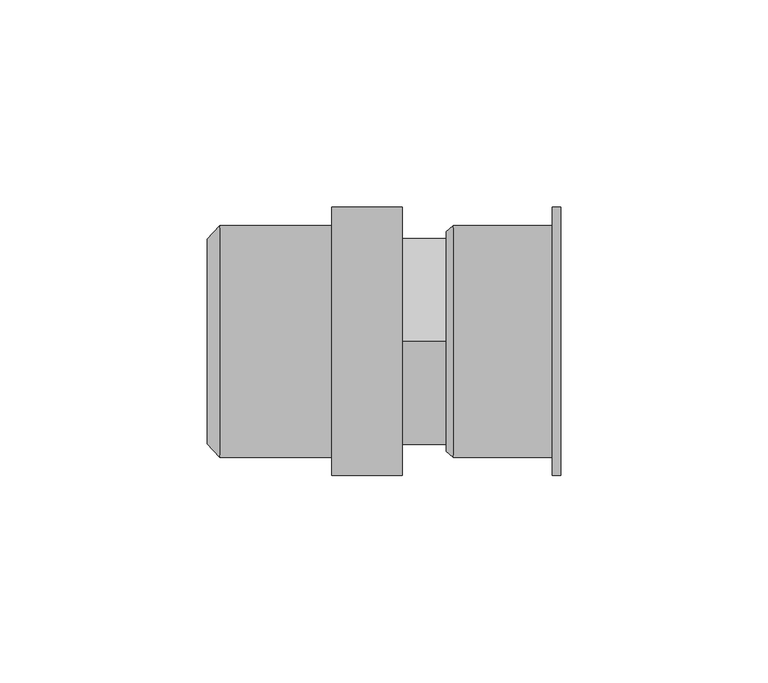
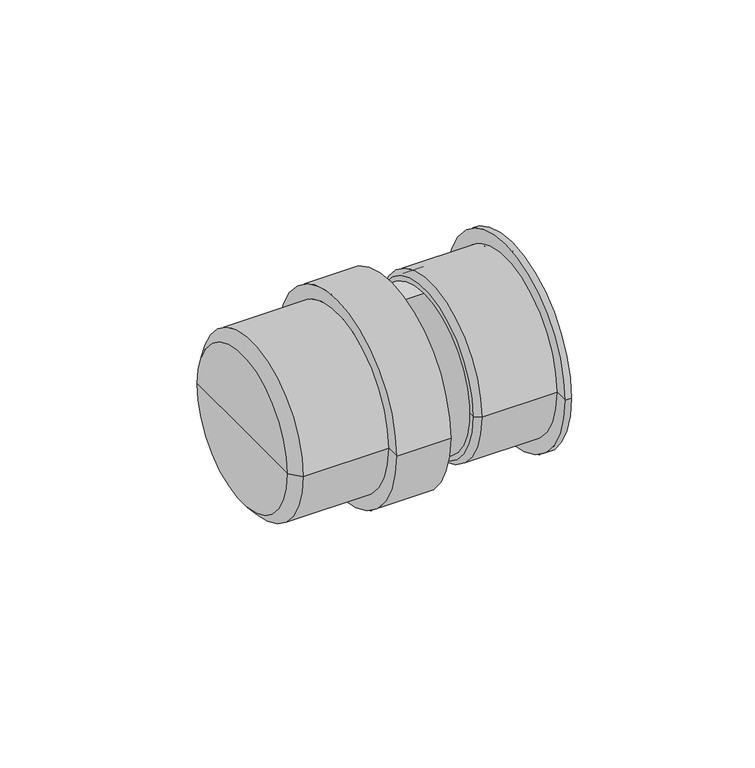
"""IFC4 building model written with IfcOpenShell, lengths in millimetres: pipe fitting geometry, PIF_AS+_Siphon_Straight_Wavin_(union) : socket end - Diameters 50-DN30/50-DN40."""

from ifc_helpers import new_model, si_unit, point, frame, origin, origin_2d, place, context, project, spatial, polyline, circle_curve, trimmed, segment, composite_curve, outline, extrude, source, transform, mapped, element, save
from ifc_brep_helpers import plane_surface, cylinder_surface, revolved_surface, advanced_brep


def pipe_fitting_66f164b8(model_context):
    return source(origin(), model_context, "Body", "SolidModel", [
        advanced_brep(
        [(-31.15, -24.75, 0.0), (-31.15, 24.75, 0.0), (-28.15, 28.0, 0.0), (-28.15, -28.0, 0.0), (-31.15, 0.0, 0.0), (-28.15, -24.75, 0.0), (-28.15, 24.75, 0.0), (-28.15, 0.0, 0.0), (15.85, -24.75, 0.0), (15.85, 24.75, 0.0), (15.85, -32.35, 0.0), (15.85, 32.35, 0.0), (-1.15, -32.35, 0.0), (-1.15, 32.35, 0.0), (-1.15, -28.0, 0.0), (-1.15, 28.0, 0.0)],
        [
            (0, 1, circle_curve(frame((-31.15, 0.0, 0.0), z_axis=(1.0, 0.0, 0.0), x_axis=(0.0, 1.0, 0.0)), 24.75)),
            (1, 2),
            (2, 3, circle_curve(frame((-28.15, 0.0, 0.0), z_axis=(-1.0, 0.0, 0.0), x_axis=(0.0, 1.0, 0.0)), 28.0)),
            (3, 0),
            (1, 0, circle_curve(frame((-31.15, 0.0, 0.0), z_axis=(1.0, 0.0, 0.0), x_axis=(0.0, 1.0, 0.0)), 24.75)),
            (3, 2, circle_curve(frame((-28.15, 0.0, 0.0), z_axis=(-1.0, 0.0, 0.0), x_axis=(0.0, 1.0, 0.0)), 28.0)),
            (4, 1),
            (0, 4),
            (5, 6, circle_curve(frame((-28.15, 0.0, 0.0), z_axis=(1.0, 0.0, 0.0), x_axis=(0.0, 1.0, 0.0)), 24.75)),
            (6, 7),
            (7, 5),
            (6, 5, circle_curve(frame((-28.15, 0.0, 0.0), z_axis=(1.0, 0.0, 0.0), x_axis=(0.0, 1.0, 0.0)), 24.75)),
            (8, 9, circle_curve(frame((15.85, 0.0, 0.0), z_axis=(1.0, 0.0, 0.0), x_axis=(0.0, 1.0, 0.0)), 24.75)),
            (9, 6),
            (5, 8),
            (9, 8, circle_curve(frame((15.85, 0.0, 0.0), z_axis=(1.0, 0.0, 0.0), x_axis=(0.0, 1.0, 0.0)), 24.75)),
            (10, 11, circle_curve(frame((15.85, 0.0, 0.0), z_axis=(1.0, 0.0, 0.0), x_axis=(0.0, 1.0, 0.0)), 32.35)),
            (11, 9),
            (8, 10),
            (11, 10, circle_curve(frame((15.85, 0.0, 0.0), z_axis=(1.0, 0.0, 0.0), x_axis=(0.0, 1.0, 0.0)), 32.35)),
            (12, 13, circle_curve(frame((-1.15, 0.0, 0.0), z_axis=(1.0, 0.0, 0.0), x_axis=(0.0, 1.0, 0.0)), 32.35)),
            (13, 11),
            (10, 12),
            (13, 12, circle_curve(frame((-1.15, 0.0, 0.0), z_axis=(1.0, 0.0, 0.0), x_axis=(0.0, 1.0, 0.0)), 32.35)),
            (14, 15, circle_curve(frame((-1.15, 0.0, 0.0), z_axis=(1.0, 0.0, 0.0), x_axis=(0.0, 1.0, 0.0)), 28.0)),
            (15, 13),
            (12, 14),
            (15, 14, circle_curve(frame((-1.15, 0.0, 0.0), z_axis=(1.0, 0.0, 0.0), x_axis=(0.0, 1.0, 0.0)), 28.0)),
            (2, 15),
            (14, 3),
        ],
        [
            revolved_surface(polyline([(-28.15, 28.0, 0.0), (-31.15, 24.75, 0.0)]), (1918.9765064, 0.0, 0.0), (-1.0, 0.0, 0.0)),
            plane_surface(frame((-31.15, 0.0, 0.0), z_axis=(-1.0, 0.0, 0.0), x_axis=(0.0, 1.0, 0.0))),
            plane_surface(frame((-28.15, 0.0, 0.0), z_axis=(1.0, 0.0, 0.0), x_axis=(0.0, 1.0, 0.0))),
            revolved_surface(polyline([(-28.15000000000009, 24.75, 0.0), (15.849999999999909, 24.75, 0.0)]), (1918.9765064, 0.0, 0.0), (-1.0, 0.0, 0.0)),
            plane_surface(frame((15.85, 0.0, 0.0), z_axis=(1.0, 0.0, 0.0), x_axis=(0.0, 1.0, 0.0))),
            cylinder_surface(frame((1918.9765064, 0.0, 0.0), z_axis=(-1.0, 0.0, 0.0), x_axis=(0.0, 1.0, 0.0)), 32.35),
            plane_surface(frame((-1.15, 0.0, 0.0), z_axis=(-1.0, 0.0, 0.0), x_axis=(0.0, 1.0, 0.0))),
            cylinder_surface(frame((1918.9765064, 0.0, 0.0), z_axis=(-1.0, 0.0, 0.0), x_axis=(0.0, 1.0, 0.0)), 28.0),
        ],
        [
            (0, [[1, 2, 3, 4]]),
            (0, [[5, -4, 6, -2]]),
            (1, [[7, -1, 8]]),
            (1, [[-8, -5, -7]]),
            (2, [[9, 10, 11]]),
            (2, [[12, -11, -10]]),
            (3, [[13, 14, -9, 15]]),
            (3, [[16, -15, -12, -14]]),
            (4, [[17, 18, -13, 19]]),
            (4, [[20, -19, -16, -18]]),
            (5, [[21, 22, -17, 23]]),
            (5, [[24, -23, -20, -22]]),
            (6, [[25, 26, -21, 27]]),
            (6, [[28, -27, -24, -26]]),
            (7, [[-3, 29, -25, 30]]),
            (7, [[-6, -30, -28, -29]]),
        ],
    ),
        advanced_brep(
        [(26.35, -26.5, 0.0), (26.35, 26.5, 0.0), (28.15, 28.0, 0.0), (28.15, -28.0, 0.0), (26.35, 0.0, 0.0), (28.15, -26.5, 0.0), (28.15, 26.5, 0.0), (28.15, 0.0, 0.0), (53.95, -26.5, 0.0), (53.95, 26.5, 0.0), (53.95, -32.35, 0.0), (53.95, 32.35, 0.0), (51.95, -32.35, 0.0), (51.95, 32.35, 0.0), (51.95, -28.0, 0.0), (51.95, 28.0, 0.0)],
        [
            (0, 1, circle_curve(frame((26.35, 0.0, 0.0), z_axis=(1.0, 0.0, 0.0), x_axis=(0.0, 0.9999999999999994, 0.0)), 26.5)),
            (1, 2),
            (2, 3, circle_curve(frame((28.15, 0.0, 0.0), z_axis=(-1.0, 0.0, 0.0), x_axis=(0.0, 0.9999999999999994, 0.0)), 28.0)),
            (3, 0),
            (1, 0, circle_curve(frame((26.35, 0.0, 0.0), z_axis=(1.0, 0.0, 0.0), x_axis=(0.0, 0.9999999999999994, 0.0)), 26.5)),
            (3, 2, circle_curve(frame((28.15, 0.0, 0.0), z_axis=(-1.0, 0.0, 0.0), x_axis=(0.0, 0.9999999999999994, 0.0)), 28.0)),
            (4, 1),
            (0, 4),
            (5, 6, circle_curve(frame((28.15, 0.0, 0.0), z_axis=(1.0, 0.0, 0.0), x_axis=(0.0, 0.9999999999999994, 0.0)), 26.5)),
            (6, 7),
            (7, 5),
            (6, 5, circle_curve(frame((28.15, 0.0, 0.0), z_axis=(1.0, 0.0, 0.0), x_axis=(0.0, 0.9999999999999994, 0.0)), 26.5)),
            (8, 9, circle_curve(frame((53.95, 0.0, 0.0), z_axis=(1.0, 0.0, 0.0), x_axis=(0.0, 0.9999999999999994, 0.0)), 26.5)),
            (9, 6),
            (5, 8),
            (9, 8, circle_curve(frame((53.95, 0.0, 0.0), z_axis=(1.0, 0.0, 0.0), x_axis=(0.0, 0.9999999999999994, 0.0)), 26.5)),
            (10, 11, circle_curve(frame((53.95, 0.0, 0.0), z_axis=(1.0, 0.0, 0.0), x_axis=(0.0, 0.9999999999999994, 0.0)), 32.35)),
            (11, 9),
            (8, 10),
            (11, 10, circle_curve(frame((53.95, 0.0, 0.0), z_axis=(1.0, 0.0, 0.0), x_axis=(0.0, 0.9999999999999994, 0.0)), 32.35)),
            (12, 13, circle_curve(frame((51.95, 0.0, 0.0), z_axis=(1.0, 0.0, 0.0), x_axis=(0.0, 0.9999999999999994, 0.0)), 32.35)),
            (13, 11),
            (10, 12),
            (13, 12, circle_curve(frame((51.95, 0.0, 0.0), z_axis=(1.0, 0.0, 0.0), x_axis=(0.0, 0.9999999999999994, 0.0)), 32.35)),
            (14, 15, circle_curve(frame((51.95, 0.0, 0.0), z_axis=(1.0, 0.0, 0.0), x_axis=(0.0, 0.9999999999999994, 0.0)), 28.0)),
            (15, 13),
            (12, 14),
            (15, 14, circle_curve(frame((51.95, 0.0, 0.0), z_axis=(1.0, 0.0, 0.0), x_axis=(0.0, 0.9999999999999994, 0.0)), 28.0)),
            (2, 15),
            (14, 3),
        ],
        [
            revolved_surface(polyline([(28.15, 28.0, 0.0), (26.35, 26.5, 0.0)]), (1957.0765064, 0.0, 0.0), (-1.0, 0.0, 0.0)),
            plane_surface(frame((26.35, 0.0, 0.0), z_axis=(-1.0, 0.0, 0.0), x_axis=(0.0, 1.0, 0.0))),
            plane_surface(frame((28.15, 0.0, 0.0), z_axis=(1.0, 0.0, 0.0), x_axis=(0.0, 1.0, 0.0))),
            revolved_surface(polyline([(28.15000000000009, 26.499999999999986, 0.0), (53.950000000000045, 26.499999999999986, 0.0)]), (1957.0765064, 0.0, 0.0), (-1.0, 0.0, 0.0)),
            plane_surface(frame((53.95, 0.0, 0.0), z_axis=(1.0, 0.0, 0.0), x_axis=(0.0, 1.0, 0.0))),
            cylinder_surface(frame((1957.0765064, 0.0, 0.0), z_axis=(-1.0, 0.0, 0.0), x_axis=(0.0, 0.9999999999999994, 0.0)), 32.35),
            plane_surface(frame((51.95, 0.0, 0.0), z_axis=(-1.0, 0.0, 0.0), x_axis=(0.0, 1.0, 0.0))),
            cylinder_surface(frame((1957.0765064, 0.0, 0.0), z_axis=(-1.0, 0.0, 0.0), x_axis=(0.0, 0.9999999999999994, 0.0)), 28.0),
        ],
        [
            (0, [[1, 2, 3, 4]]),
            (0, [[5, -4, 6, -2]]),
            (1, [[7, -1, 8]]),
            (1, [[-8, -5, -7]]),
            (2, [[9, 10, 11]]),
            (2, [[12, -11, -10]]),
            (3, [[13, 14, -9, 15]]),
            (3, [[16, -15, -12, -14]]),
            (4, [[17, 18, -13, 19]]),
            (4, [[20, -19, -16, -18]]),
            (5, [[21, 22, -17, 23]]),
            (5, [[24, -23, -20, -22]]),
            (6, [[25, 26, -21, 27]]),
            (6, [[28, -27, -24, -26]]),
            (7, [[-3, 29, -25, 30]]),
            (7, [[-6, -30, -28, -29]]),
        ],
    ),
        extrude(outline(composite_curve([segment(trimmed(circle_curve(origin_2d(), 25.0), [point((0.0, -25.0))], [point((0.0, 25.0))], False, "CARTESIAN"), True, "CONTINUOUS"), segment(trimmed(circle_curve(origin_2d(), 25.0), [point((0.0, 25.0))], [point((0.0, -25.0))], False, "CARTESIAN"), True, "CONTINUOUS")], self_intersect=False)), frame((-28.15, 0.0, 0.0), z_axis=(1.0, 0.0, 0.0), x_axis=(0.0, 1.0, 0.0)), (0.0, 0.0, 1.0), 56.3),
    ])


if __name__ == "__main__":
    model = new_model("IFC4")
    model_context = context("Model", 3, world=origin())
    ifc_project = project(units=[si_unit("LENGTHUNIT", "METRE", prefix="MILLI")], contexts=[model_context])
    site = spatial("IfcSite", under=ifc_project)
    building = spatial("IfcBuilding", under=site)
    placement = place(None, origin())
    pipe_fitting_shape = pipe_fitting_66f164b8(model_context)
    element("IfcPipeFitting", 1, ObjectType="PIF_AS+_Siphon_Straight_Wavin_(union) : socket end - Diameters 50-DN30/50-DN40", at=placement, inside=building, context=model_context, shape_type="MappedRepresentation", body=[
        mapped(pipe_fitting_shape, transform((0.0, 0.0, 0.0), x_axis=(1.0, 0.0, 0.0), y_axis=(0.0, 1.0, 0.0), z_axis=(0.0, 0.0, 1.0))),
    ])
    save(model, "model.ifc")
